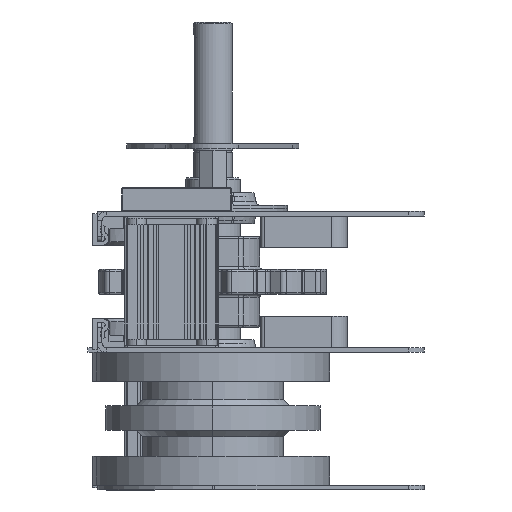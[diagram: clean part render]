
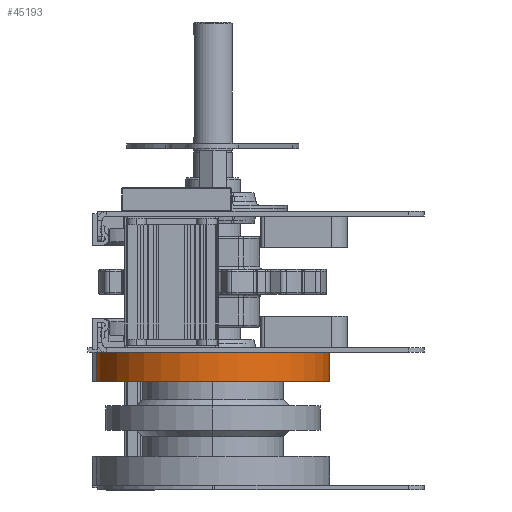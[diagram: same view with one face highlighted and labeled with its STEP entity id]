
A CAD part, left-side view. The second image highlights one B-rep face of the part: STEP entity #45193.
In plain terms, the highlighted cylindrical face has radius 74.75 mm (diameter 149.5 mm), a partial arc.
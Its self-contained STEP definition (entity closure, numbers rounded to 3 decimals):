
#2191 = AXIS2_PLACEMENT_3D ( 'NONE', #57852, #57854, #57855 ) ;
#2193 = AXIS2_PLACEMENT_3D ( 'NONE', #57864, #57865, #57867 ) ;
#2323 = ORIENTED_EDGE ( 'NONE', *, *, #41897, .T. ) ;
#2468 = ORIENTED_EDGE ( 'NONE', *, *, #41899, .T. ) ;
#2470 = ORIENTED_EDGE ( 'NONE', *, *, #41895, .F. ) ;
#2471 = ORIENTED_EDGE ( 'NONE', *, *, #41896, .F. ) ;
#3119 = AXIS2_PLACEMENT_3D ( 'NONE', #26438, #26437, #26433 ) ;
#7381 = CARTESIAN_POINT ( 'NONE',  ( -257.456, 74.377, -63.5 ) ) ;
#7425 = CARTESIAN_POINT ( 'NONE',  ( -249.795, -74.75, -63.5 ) ) ;
#7428 = CARTESIAN_POINT ( 'NONE',  ( -249.795, -74.75, -45. ) ) ;
#7475 = CARTESIAN_POINT ( 'NONE',  ( -257.456, 74.377, -45. ) ) ;
#26433 = DIRECTION ( 'NONE',  ( 1., 0., 0. ) ) ;
#26437 = DIRECTION ( 'NONE',  ( 0., 0., 1. ) ) ;
#26438 = CARTESIAN_POINT ( 'NONE',  ( -250., 0., -63.5 ) ) ;
#27215 = EDGE_LOOP ( 'NONE', ( #2323, #2471, #2470, #2468 ) ) ;
#27414 = CIRCLE ( 'NONE', #2191, 74.75 ) ;
#27418 = LINE ( 'NONE', #57850, #27424 ) ;
#27422 = CIRCLE ( 'NONE', #2193, 74.75 ) ;
#27424 = VECTOR ( 'NONE', #57839, 1000. ) ;
#27428 = LINE ( 'NONE', #57870, #27434 ) ;
#27434 = VECTOR ( 'NONE', #57873, 1000. ) ;
#35555 = VERTEX_POINT ( 'NONE', #7381 ) ;
#35599 = VERTEX_POINT ( 'NONE', #7425 ) ;
#35602 = VERTEX_POINT ( 'NONE', #7428 ) ;
#35649 = VERTEX_POINT ( 'NONE', #7475 ) ;
#37292 = FACE_OUTER_BOUND ( 'NONE', #27215, .T. ) ;
#37298 = CYLINDRICAL_SURFACE ( 'NONE', #3119, 74.75 ) ;
#41895 = EDGE_CURVE ( 'NONE', #35599, #35555, #27414, .T. ) ;
#41896 = EDGE_CURVE ( 'NONE', #35555, #35649, #27418, .T. ) ;
#41897 = EDGE_CURVE ( 'NONE', #35602, #35649, #27422, .T. ) ;
#41899 = EDGE_CURVE ( 'NONE', #35599, #35602, #27428, .T. ) ;
#45193 = ADVANCED_FACE ( 'NONE', ( #37292 ), #37298, .T. ) ;
#57839 = DIRECTION ( 'NONE',  ( 0., 0., 1. ) ) ;
#57850 = CARTESIAN_POINT ( 'NONE',  ( -257.456, 74.377, -63.5 ) ) ;
#57852 = CARTESIAN_POINT ( 'NONE',  ( -250., 0., -63.5 ) ) ;
#57854 = DIRECTION ( 'NONE',  ( 0., 0., -1. ) ) ;
#57855 = DIRECTION ( 'NONE',  ( -1., 0., 0. ) ) ;
#57864 = CARTESIAN_POINT ( 'NONE',  ( -250., 0., -45. ) ) ;
#57865 = DIRECTION ( 'NONE',  ( 0., 0., -1. ) ) ;
#57867 = DIRECTION ( 'NONE',  ( -1., 0., 0. ) ) ;
#57870 = CARTESIAN_POINT ( 'NONE',  ( -249.795, -74.75, -63.5 ) ) ;
#57873 = DIRECTION ( 'NONE',  ( 0., 0., 1. ) ) ;
